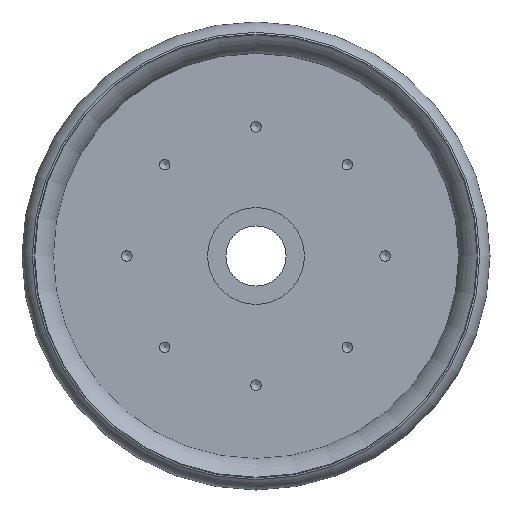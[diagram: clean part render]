
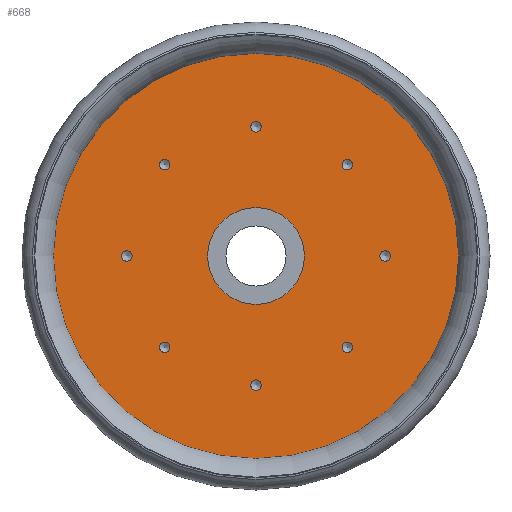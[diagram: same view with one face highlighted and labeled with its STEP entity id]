
A CAD part, front view. The second image highlights one B-rep face of the part: STEP entity #668.
In plain terms, the highlighted planar face has unit normal (0, -1, 0).
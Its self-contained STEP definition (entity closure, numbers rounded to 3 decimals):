
#22 = CARTESIAN_POINT ( 'NONE',  ( 28.284, 31.407, -29.905 ) ) ;
#63 = AXIS2_PLACEMENT_3D ( 'NONE', #306, #159, #242 ) ;
#71 = FACE_BOUND ( 'NONE', #905, .T. ) ;
#105 = EDGE_LOOP ( 'NONE', ( #886 ) ) ;
#115 = AXIS2_PLACEMENT_3D ( 'NONE', #919, #709, #261 ) ;
#122 = EDGE_LOOP ( 'NONE', ( #726 ) ) ;
#123 = DIRECTION ( 'NONE',  ( 0., 0., -1. ) ) ;
#135 = EDGE_CURVE ( 'NONE', #329, #329, #178, .T. ) ;
#136 = CIRCLE ( 'NONE', #63, 1.621 ) ;
#139 = DIRECTION ( 'NONE',  ( 0., 1., 0. ) ) ;
#151 = CARTESIAN_POINT ( 'NONE',  ( -28.284, 31.407, 28.284 ) ) ;
#152 = VERTEX_POINT ( 'NONE', #22 ) ;
#159 = DIRECTION ( 'NONE',  ( 0., -1., 0. ) ) ;
#162 = EDGE_CURVE ( 'NONE', #405, #405, #193, .T. ) ;
#171 = CARTESIAN_POINT ( 'NONE',  ( 28.284, 31.407, 28.284 ) ) ;
#176 = ORIENTED_EDGE ( 'NONE', *, *, #641, .F. ) ;
#178 = CIRCLE ( 'NONE', #440, 1.621 ) ;
#190 = DIRECTION ( 'NONE',  ( 0., 0., 1. ) ) ;
#193 = CIRCLE ( 'NONE', #889, 1.621 ) ;
#198 = VERTEX_POINT ( 'NONE', #560 ) ;
#202 = CARTESIAN_POINT ( 'NONE',  ( 40., 31.407, 0. ) ) ;
#209 = FACE_BOUND ( 'NONE', #913, .T. ) ;
#212 = DIRECTION ( 'NONE',  ( 0., 0., 1. ) ) ;
#232 = DIRECTION ( 'NONE',  ( 0., 0., -1. ) ) ;
#237 = VERTEX_POINT ( 'NONE', #749 ) ;
#242 = DIRECTION ( 'NONE',  ( 0., 0., -1. ) ) ;
#246 = ORIENTED_EDGE ( 'NONE', *, *, #909, .F. ) ;
#253 = DIRECTION ( 'NONE',  ( 0., -1., 0. ) ) ;
#261 = DIRECTION ( 'NONE',  ( 0., 0., -1. ) ) ;
#262 = AXIS2_PLACEMENT_3D ( 'NONE', #336, #347, #190 ) ;
#274 = CARTESIAN_POINT ( 'NONE',  ( 0., 31.407, 40. ) ) ;
#280 = AXIS2_PLACEMENT_3D ( 'NONE', #171, #727, #232 ) ;
#285 = FACE_BOUND ( 'NONE', #682, .T. ) ;
#296 = DIRECTION ( 'NONE',  ( 0., -1., 0. ) ) ;
#306 = CARTESIAN_POINT ( 'NONE',  ( 28.284, 31.407, -28.284 ) ) ;
#309 = ORIENTED_EDGE ( 'NONE', *, *, #135, .F. ) ;
#315 = CARTESIAN_POINT ( 'NONE',  ( -28.284, 31.407, -29.905 ) ) ;
#329 = VERTEX_POINT ( 'NONE', #538 ) ;
#332 = AXIS2_PLACEMENT_3D ( 'NONE', #501, #139, #212 ) ;
#336 = CARTESIAN_POINT ( 'NONE',  ( 0., 31.407, 0. ) ) ;
#345 = EDGE_CURVE ( 'NONE', #455, #455, #591, .T. ) ;
#347 = DIRECTION ( 'NONE',  ( 0., 1., 0. ) ) ;
#354 = EDGE_CURVE ( 'NONE', #152, #152, #136, .T. ) ;
#355 = AXIS2_PLACEMENT_3D ( 'NONE', #957, #296, #449 ) ;
#378 = ORIENTED_EDGE ( 'NONE', *, *, #383, .F. ) ;
#383 = EDGE_CURVE ( 'NONE', #741, #741, #664, .T. ) ;
#405 = VERTEX_POINT ( 'NONE', #848 ) ;
#424 = CARTESIAN_POINT ( 'NONE',  ( -40., 31.407, -1.621 ) ) ;
#429 = CIRCLE ( 'NONE', #262, 62.789 ) ;
#440 = AXIS2_PLACEMENT_3D ( 'NONE', #274, #553, #123 ) ;
#443 = FACE_BOUND ( 'NONE', #674, .T. ) ;
#449 = DIRECTION ( 'NONE',  ( 0., 0., -1. ) ) ;
#455 = VERTEX_POINT ( 'NONE', #315 ) ;
#456 = CIRCLE ( 'NONE', #797, 1.621 ) ;
#458 = ORIENTED_EDGE ( 'NONE', *, *, #345, .F. ) ;
#463 = EDGE_LOOP ( 'NONE', ( #176 ) ) ;
#476 = ORIENTED_EDGE ( 'NONE', *, *, #162, .F. ) ;
#490 = VERTEX_POINT ( 'NONE', #424 ) ;
#491 = AXIS2_PLACEMENT_3D ( 'NONE', #542, #253, #608 ) ;
#501 = CARTESIAN_POINT ( 'NONE',  ( 0., 31.407, 0. ) ) ;
#516 = CARTESIAN_POINT ( 'NONE',  ( -28.284, 31.407, 26.663 ) ) ;
#536 = CIRCLE ( 'NONE', #491, 1.621 ) ;
#538 = CARTESIAN_POINT ( 'NONE',  ( 0., 31.407, 38.379 ) ) ;
#542 = CARTESIAN_POINT ( 'NONE',  ( -40., 31.407, 0. ) ) ;
#553 = DIRECTION ( 'NONE',  ( 0., -1., 0. ) ) ;
#560 = CARTESIAN_POINT ( 'NONE',  ( 28.284, 31.407, 26.663 ) ) ;
#562 = PLANE ( 'NONE',  #332 ) ;
#565 = DIRECTION ( 'NONE',  ( 0., -1., 0. ) ) ;
#580 = CIRCLE ( 'NONE', #280, 1.621 ) ;
#587 = EDGE_CURVE ( 'NONE', #695, #695, #429, .T. ) ;
#588 = CARTESIAN_POINT ( 'NONE',  ( 0., 31.407, 62.789 ) ) ;
#591 = CIRCLE ( 'NONE', #355, 1.621 ) ;
#608 = DIRECTION ( 'NONE',  ( 0., 0., -1. ) ) ;
#620 = ORIENTED_EDGE ( 'NONE', *, *, #756, .F. ) ;
#634 = DIRECTION ( 'NONE',  ( 0., -1., 0. ) ) ;
#641 = EDGE_CURVE ( 'NONE', #734, #734, #819, .T. ) ;
#658 = DIRECTION ( 'NONE',  ( 0., 0., -1. ) ) ;
#664 = CIRCLE ( 'NONE', #715, 1.621 ) ;
#668 = ADVANCED_FACE ( 'NONE', ( #948, #956, #285, #868, #711, #71, #209, #443, #878, #725 ), #562, .F. ) ;
#674 = EDGE_LOOP ( 'NONE', ( #839 ) ) ;
#682 = EDGE_LOOP ( 'NONE', ( #246 ) ) ;
#695 = VERTEX_POINT ( 'NONE', #588 ) ;
#709 = DIRECTION ( 'NONE',  ( 0., -1., 0. ) ) ;
#711 = FACE_BOUND ( 'NONE', #122, .T. ) ;
#715 = AXIS2_PLACEMENT_3D ( 'NONE', #151, #754, #658 ) ;
#725 = FACE_OUTER_BOUND ( 'NONE', #105, .T. ) ;
#726 = ORIENTED_EDGE ( 'NONE', *, *, #354, .F. ) ;
#727 = DIRECTION ( 'NONE',  ( 0., -1., 0. ) ) ;
#734 = VERTEX_POINT ( 'NONE', #835 ) ;
#741 = VERTEX_POINT ( 'NONE', #516 ) ;
#748 = EDGE_LOOP ( 'NONE', ( #620 ) ) ;
#749 = CARTESIAN_POINT ( 'NONE',  ( 40., 31.407, -1.621 ) ) ;
#754 = DIRECTION ( 'NONE',  ( 0., -1., 0. ) ) ;
#756 = EDGE_CURVE ( 'NONE', #237, #237, #456, .T. ) ;
#783 = EDGE_LOOP ( 'NONE', ( #309 ) ) ;
#797 = AXIS2_PLACEMENT_3D ( 'NONE', #202, #634, #943 ) ;
#819 = CIRCLE ( 'NONE', #115, 15. ) ;
#835 = CARTESIAN_POINT ( 'NONE',  ( 0., 31.407, -15. ) ) ;
#839 = ORIENTED_EDGE ( 'NONE', *, *, #953, .F. ) ;
#848 = CARTESIAN_POINT ( 'NONE',  ( 0., 31.407, -41.621 ) ) ;
#859 = CARTESIAN_POINT ( 'NONE',  ( 0., 31.407, -40. ) ) ;
#868 = FACE_BOUND ( 'NONE', #748, .T. ) ;
#878 = FACE_BOUND ( 'NONE', #933, .T. ) ;
#886 = ORIENTED_EDGE ( 'NONE', *, *, #587, .F. ) ;
#889 = AXIS2_PLACEMENT_3D ( 'NONE', #859, #565, #940 ) ;
#905 = EDGE_LOOP ( 'NONE', ( #476 ) ) ;
#909 = EDGE_CURVE ( 'NONE', #198, #198, #580, .T. ) ;
#913 = EDGE_LOOP ( 'NONE', ( #458 ) ) ;
#919 = CARTESIAN_POINT ( 'NONE',  ( 0., 31.407, 0. ) ) ;
#933 = EDGE_LOOP ( 'NONE', ( #378 ) ) ;
#940 = DIRECTION ( 'NONE',  ( 0., 0., -1. ) ) ;
#943 = DIRECTION ( 'NONE',  ( 0., 0., -1. ) ) ;
#948 = FACE_BOUND ( 'NONE', #463, .T. ) ;
#953 = EDGE_CURVE ( 'NONE', #490, #490, #536, .T. ) ;
#956 = FACE_BOUND ( 'NONE', #783, .T. ) ;
#957 = CARTESIAN_POINT ( 'NONE',  ( -28.284, 31.407, -28.284 ) ) ;
